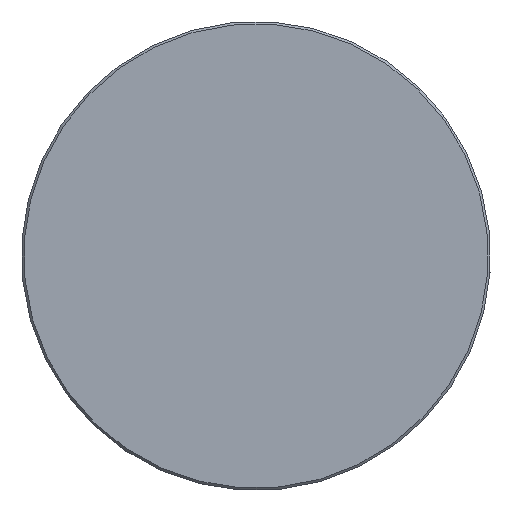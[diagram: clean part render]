
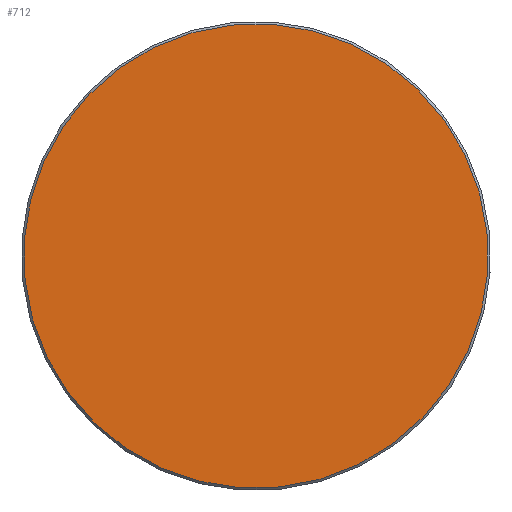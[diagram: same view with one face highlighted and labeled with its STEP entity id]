
A CAD part, left-side view. The second image highlights one B-rep face of the part: STEP entity #712.
In plain terms, the highlighted planar face has unit normal (-1, 0, 0).
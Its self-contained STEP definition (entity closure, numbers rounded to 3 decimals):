
#672=CARTESIAN_POINT('',(-111.319,47.582,-13.644));
#673=VERTEX_POINT('',#672);
#674=CARTESIAN_POINT('',(-111.319,0.,0.));
#675=DIRECTION('',(1.0,0.,0.));
#676=DIRECTION('',(0.,-0.961,0.276));
#677=AXIS2_PLACEMENT_3D('',#674,#675,#676);
#678=CIRCLE('',#677,49.5);
#679=EDGE_CURVE('',#673,#673,#678,.T.);
#704=CARTESIAN_POINT('',(-111.319,46.717,-13.396));
#705=DIRECTION('',(-1.0,0.0,0.0));
#706=DIRECTION('',(0.0,0.961,-0.276));
#707=AXIS2_PLACEMENT_3D('',#704,#705,#706);
#708=PLANE('',#707);
#709=ORIENTED_EDGE('',*,*,#679,.F.);
#710=EDGE_LOOP('',(#709));
#711=FACE_OUTER_BOUND('',#710,.T.);
#712=ADVANCED_FACE('',(#711),#708,.T.);
